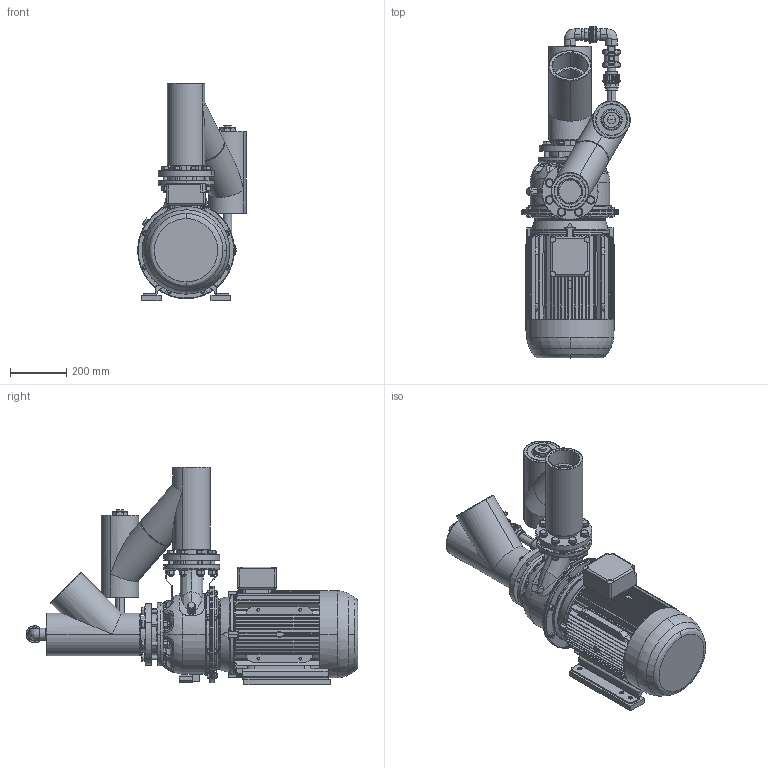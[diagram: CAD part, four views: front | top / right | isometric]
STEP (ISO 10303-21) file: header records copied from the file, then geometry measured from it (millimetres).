
FILE_DESCRIPTION (( 'STEP AP203' ), '1' );
FILE_NAME ('Lowara SHE 80-200 z.a.z handbed. by-pass.STEP', '2011-04-08T11:24:23', ( '' ), ( '' ), 'SwSTEP 2.0', 'SolidWorks 2010', '' );
FILE_SCHEMA (( 'CONFIG_CONTROL_DESIGN' ));
Products named in the file (1): Lowara SHE 80-200 z.a.z handbed. by-pass
Bounding box: 387.5 x 1185.26 x 776.57 mm (x, y, z)
Surface area: 4335919 mm2 (no closed solid volume)
Topology: 0 solids, 106 shells, 3495 faces, 8664 edges, 5410 vertices
Faces by surface type: plane 1307, cylinder 1013, cone 632, bspline 518, torus 25
Entity records: 144919 total; most frequent: CARTESIAN_POINT 66754, ORIENTED_EDGE 17129, DIRECTION 15347, EDGE_CURVE 8582, AXIS2_PLACEMENT_3D 6149, VERTEX_POINT 5411, EDGE_LOOP 3863, FACE_OUTER_BOUND 3496
